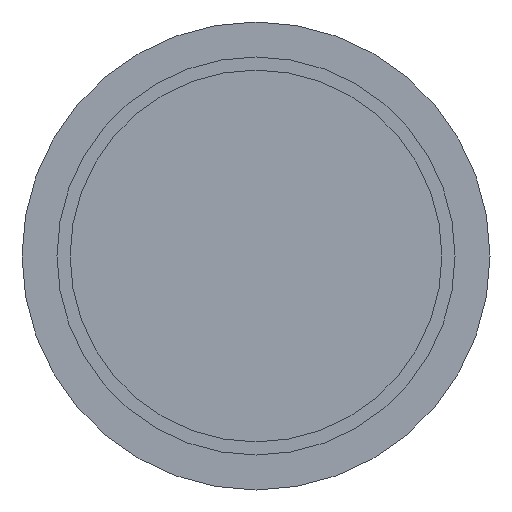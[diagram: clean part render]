
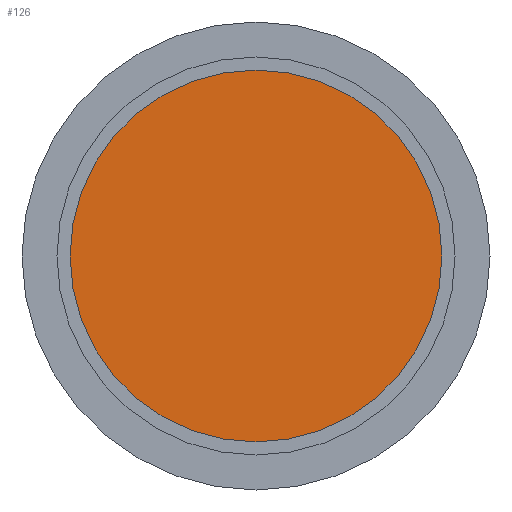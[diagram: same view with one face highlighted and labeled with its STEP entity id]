
A CAD part, front view. The second image highlights one B-rep face of the part: STEP entity #126.
In plain terms, the highlighted planar face has unit normal (0, -1, 0).
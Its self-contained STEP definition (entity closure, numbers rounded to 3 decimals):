
#21 = CIRCLE ( 'NONE', #118, 71.5 ) ;
#93 = DIRECTION ( 'NONE',  ( 0., 0., 1. ) ) ;
#99 = DIRECTION ( 'NONE',  ( 0., -1., 0. ) ) ;
#118 = AXIS2_PLACEMENT_3D ( 'NONE', #263, #416, #309 ) ;
#126 = ADVANCED_FACE ( 'NONE', ( #421 ), #427, .F. ) ;
#137 = CARTESIAN_POINT ( 'NONE',  ( 0., 0., 0. ) ) ;
#140 = EDGE_LOOP ( 'NONE', ( #540, #225 ) ) ;
#141 = CARTESIAN_POINT ( 'NONE',  ( 0., 0., -71.5 ) ) ;
#223 = CARTESIAN_POINT ( 'NONE',  ( 0., 0., 71.5 ) ) ;
#225 = ORIENTED_EDGE ( 'NONE', *, *, #401, .T. ) ;
#263 = CARTESIAN_POINT ( 'NONE',  ( 0., 0., 0. ) ) ;
#277 = DIRECTION ( 'NONE',  ( 0., 1., 0. ) ) ;
#297 = EDGE_CURVE ( 'NONE', #454, #385, #21, .T. ) ;
#309 = DIRECTION ( 'NONE',  ( 0., 0., -1. ) ) ;
#319 = CIRCLE ( 'NONE', #538, 71.5 ) ;
#370 = CARTESIAN_POINT ( 'NONE',  ( 0., 0., 71.5 ) ) ;
#385 = VERTEX_POINT ( 'NONE', #223 ) ;
#401 = EDGE_CURVE ( 'NONE', #385, #454, #319, .T. ) ;
#416 = DIRECTION ( 'NONE',  ( 0., -1., 0. ) ) ;
#421 = FACE_OUTER_BOUND ( 'NONE', #140, .T. ) ;
#427 = PLANE ( 'NONE',  #570 ) ;
#428 = DIRECTION ( 'NONE',  ( 0., 0., -1. ) ) ;
#454 = VERTEX_POINT ( 'NONE', #141 ) ;
#538 = AXIS2_PLACEMENT_3D ( 'NONE', #137, #99, #428 ) ;
#540 = ORIENTED_EDGE ( 'NONE', *, *, #297, .T. ) ;
#570 = AXIS2_PLACEMENT_3D ( 'NONE', #370, #277, #93 ) ;
